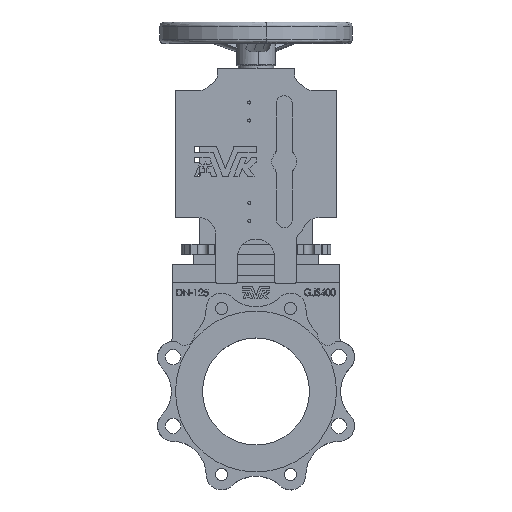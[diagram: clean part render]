
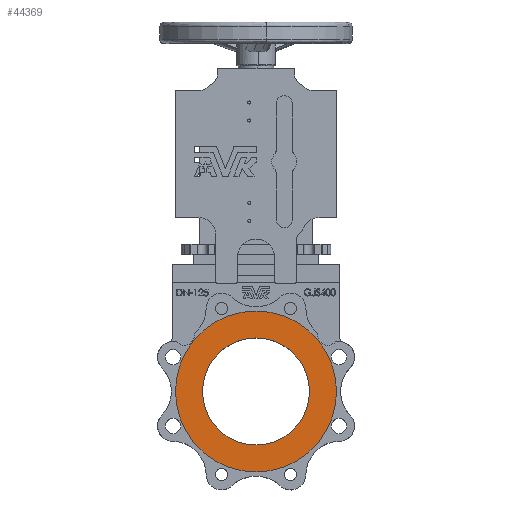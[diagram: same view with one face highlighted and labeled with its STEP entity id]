
A CAD part, top view. The second image highlights one B-rep face of the part: STEP entity #44369.
In plain terms, the highlighted planar face has unit normal (0, 0, 1).
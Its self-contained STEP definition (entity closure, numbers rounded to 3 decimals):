
#201 = CARTESIAN_POINT ( 'NONE',  ( 278.002, 141.969, -18. ) ) ;
#328 = CARTESIAN_POINT ( 'NONE',  ( 215.502, 141.969, -18. ) ) ;
#3774 = DIRECTION ( 'NONE',  ( -1., 0., 0. ) ) ;
#5793 = DIRECTION ( 'NONE',  ( 0., 0., -1. ) ) ;
#5841 = CARTESIAN_POINT ( 'NONE',  ( 340.502, 141.969, -18. ) ) ;
#6088 = DIRECTION ( 'NONE',  ( -1., 0., 0. ) ) ;
#6477 = AXIS2_PLACEMENT_3D ( 'NONE', #9960, #13204, #6728 ) ;
#6728 = DIRECTION ( 'NONE',  ( -1., 0., 0. ) ) ;
#8300 = CARTESIAN_POINT ( 'NONE',  ( 278.002, 141.969, -18. ) ) ;
#9634 = DIRECTION ( 'NONE',  ( 1., 0., 0. ) ) ;
#9635 = EDGE_CURVE ( 'NONE', #34122, #20907, #40047, .T. ) ;
#9930 = DIRECTION ( 'NONE',  ( 0., 0., 1. ) ) ;
#9960 = CARTESIAN_POINT ( 'NONE',  ( 278.002, 141.969, -18. ) ) ;
#13204 = DIRECTION ( 'NONE',  ( 0., 0., -1. ) ) ;
#13311 = ORIENTED_EDGE ( 'NONE', *, *, #40645, .T. ) ;
#13684 = CARTESIAN_POINT ( 'NONE',  ( 184.002, 141.969, -18. ) ) ;
#16906 = AXIS2_PLACEMENT_3D ( 'NONE', #38153, #9930, #9634 ) ;
#18134 = AXIS2_PLACEMENT_3D ( 'NONE', #201, #24850, #3774 ) ;
#18460 = ORIENTED_EDGE ( 'NONE', *, *, #30244, .F. ) ;
#20065 = CARTESIAN_POINT ( 'NONE',  ( 278.002, 141.969, -18. ) ) ;
#20907 = VERTEX_POINT ( 'NONE', #26672 ) ;
#21661 = VERTEX_POINT ( 'NONE', #328 ) ;
#22231 = DIRECTION ( 'NONE',  ( 0., 0., -1. ) ) ;
#24180 = PLANE ( 'NONE',  #16906 ) ;
#24725 = AXIS2_PLACEMENT_3D ( 'NONE', #20065, #5793, #6088 ) ;
#24850 = DIRECTION ( 'NONE',  ( 0., 0., -1. ) ) ;
#25242 = EDGE_CURVE ( 'NONE', #28249, #21661, #28188, .T. ) ;
#25803 = DIRECTION ( 'NONE',  ( -1., 0., 0. ) ) ;
#26672 = CARTESIAN_POINT ( 'NONE',  ( 372.002, 141.969, -18. ) ) ;
#28188 = CIRCLE ( 'NONE', #24725, 62.5 ) ;
#28249 = VERTEX_POINT ( 'NONE', #5841 ) ;
#30051 = FACE_BOUND ( 'NONE', #40440, .T. ) ;
#30244 = EDGE_CURVE ( 'NONE', #20907, #34122, #38937, .T. ) ;
#32824 = FACE_OUTER_BOUND ( 'NONE', #39168, .T. ) ;
#33718 = ORIENTED_EDGE ( 'NONE', *, *, #9635, .F. ) ;
#34122 = VERTEX_POINT ( 'NONE', #13684 ) ;
#35787 = CIRCLE ( 'NONE', #43277, 62.5 ) ;
#38153 = CARTESIAN_POINT ( 'NONE',  ( 278.002, 141.969, -18. ) ) ;
#38937 = CIRCLE ( 'NONE', #6477, 94. ) ;
#39168 = EDGE_LOOP ( 'NONE', ( #33718, #18460 ) ) ;
#40047 = CIRCLE ( 'NONE', #18134, 94. ) ;
#40440 = EDGE_LOOP ( 'NONE', ( #13311, #40876 ) ) ;
#40645 = EDGE_CURVE ( 'NONE', #21661, #28249, #35787, .T. ) ;
#40876 = ORIENTED_EDGE ( 'NONE', *, *, #25242, .T. ) ;
#43277 = AXIS2_PLACEMENT_3D ( 'NONE', #8300, #22231, #25803 ) ;
#44369 = ADVANCED_FACE ( 'NONE', ( #30051, #32824 ), #24180, .T. ) ;
